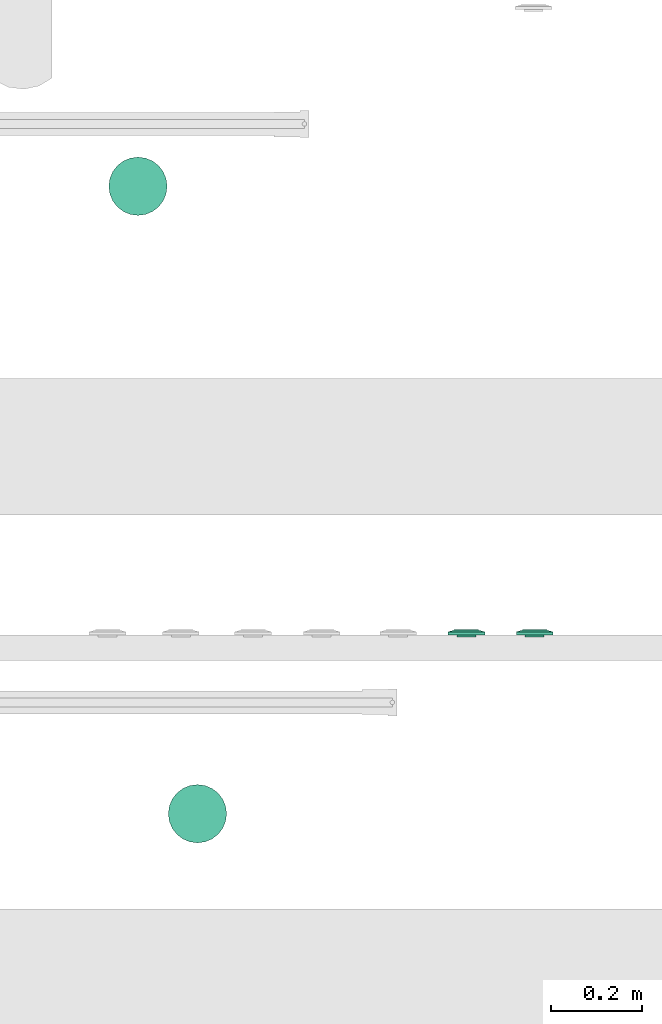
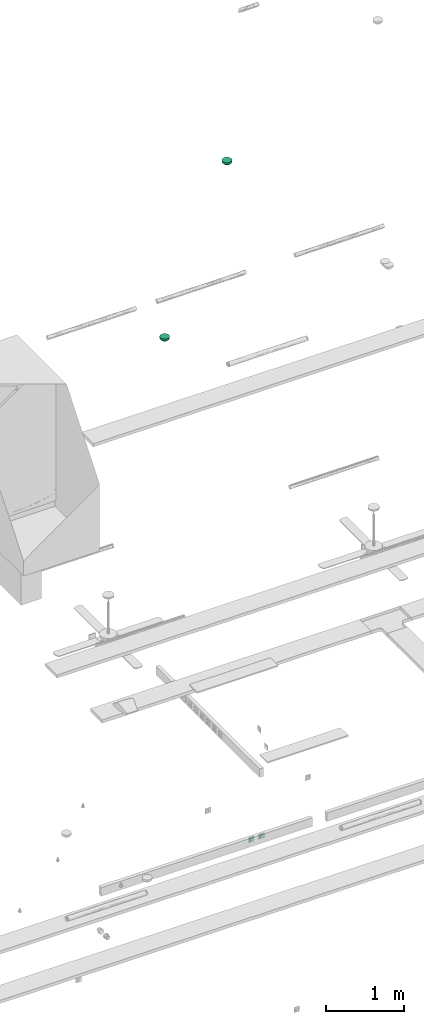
# One storey, part 92 of 153: 4 flow terminals.
"""IFC2X3 building model written with IfcOpenShell, lengths in metres."""

from ifc_helpers import new_model, entity, si_unit, converted_unit, derived_unit, direction, frame, origin, place, context, subcontext, project, spatial, faceted_brep, source, transform, mapped, type_object, type_shapes, element, save


model = new_model("IFC2X3")

# Units and contexts
model_context = context("Model", 3, precision=1e-05, world=origin(), true_north=direction((6.12303176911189e-17, 1.0)))
body_context = subcontext(model_context, "Body", "Model", "MODEL_VIEW")
ifc_project = project(units=[si_unit("LENGTHUNIT", "METRE"), si_unit("AREAUNIT", "SQUARE_METRE"), si_unit("VOLUMEUNIT", "CUBIC_METRE"), converted_unit("PLANEANGLEUNIT", "DEGREE", entity("IfcRatioMeasure", 0.0174532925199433), si_unit("PLANEANGLEUNIT", "RADIAN"), dimensions=[0, 0, 0, 0, 0, 0, 0]), si_unit("MASSUNIT", "GRAM", prefix="KILO"), derived_unit("MASSDENSITYUNIT", [(si_unit("MASSUNIT", "GRAM", prefix="KILO"), 1), (si_unit("LENGTHUNIT", "METRE"), -3)]), si_unit("TIMEUNIT", "SECOND"), si_unit("FREQUENCYUNIT", "HERTZ"), si_unit("THERMODYNAMICTEMPERATUREUNIT", "DEGREE_CELSIUS"), derived_unit("THERMALTRANSMITTANCEUNIT", [(si_unit("MASSUNIT", "GRAM", prefix="KILO"), 1), (si_unit("THERMODYNAMICTEMPERATUREUNIT", "KELVIN"), -1), (si_unit("TIMEUNIT", "SECOND"), -3)]), derived_unit("VOLUMETRICFLOWRATEUNIT", [(si_unit("LENGTHUNIT", "METRE"), 3), (si_unit("TIMEUNIT", "SECOND"), -1)]), si_unit("ELECTRICCURRENTUNIT", "AMPERE"), si_unit("ELECTRICVOLTAGEUNIT", "VOLT"), si_unit("POWERUNIT", "WATT"), si_unit("FORCEUNIT", "NEWTON"), si_unit("ILLUMINANCEUNIT", "LUX"), si_unit("LUMINOUSFLUXUNIT", "LUMEN"), si_unit("LUMINOUSINTENSITYUNIT", "CANDELA"), derived_unit("USERDEFINED", [(si_unit("MASSUNIT", "GRAM", prefix="KILO"), -1), (si_unit("LENGTHUNIT", "METRE"), -2), (si_unit("TIMEUNIT", "SECOND"), 3), (si_unit("LUMINOUSFLUXUNIT", "LUMEN"), 1)]), derived_unit("LINEARVELOCITYUNIT", [(si_unit("LENGTHUNIT", "METRE"), 1), (si_unit("TIMEUNIT", "SECOND"), -1)]), si_unit("PRESSUREUNIT", "PASCAL"), derived_unit("USERDEFINED", [(si_unit("LENGTHUNIT", "METRE"), -2), (si_unit("MASSUNIT", "GRAM", prefix="KILO"), 1), (si_unit("TIMEUNIT", "SECOND"), -2)])], contexts=[model_context])

# Site, building, storey
site_placement = place(None, origin())
site = spatial("IfcSite", under=ifc_project, at=site_placement, Name="Default", CompositionType="ELEMENT")
building_placement = place(site_placement, origin())
building = spatial("IfcBuilding", under=site, at=building_placement, CompositionType="ELEMENT")
storey_placement = place(building_placement, frame((0.0, 0.0, -4.62)))
storey = spatial("IfcBuildingStorey", under=building, at=storey_placement, Name="S02", CompositionType="ELEMENT", Elevation=-4.62)

# Flow terminals
electric_appliance_type = type_object("IfcElectricApplianceType", Name="RJ45 IP20", PredefinedType="NOTDEFINED")
shared_shape_1 = source(origin(), body_context, "Body", "Brep", [
    faceted_brep([(0.00200000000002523, 0.0, 0.00799999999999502), (0.00400000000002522, 0.0, 0.00799999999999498), (0.00500000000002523, 0.00199999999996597, 0.00799999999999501), (0.0110000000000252, 0.00199999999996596, 0.00799999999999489), (0.0120000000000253, 0.0, 0.00799999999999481), (0.0140000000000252, 0.0, 0.00799999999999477), (0.0140000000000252, 0.00399999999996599, 0.00799999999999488), (0.00200000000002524, 0.00399999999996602, 0.00799999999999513), (0.00200000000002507, 0.0, 0.0), (0.00200000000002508, 0.00399999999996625, 0.0), (0.0140000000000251, 0.00399999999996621, 0.0), (0.0140000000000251, 0.0, 0.0), (0.0120000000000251, 0.0, 0.0), (0.0110000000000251, 0.00199999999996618, 0.0), (0.00500000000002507, 0.0019999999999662, 0.0), (0.00400000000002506, 0.0, 0.0)], [[[0, 1, 2, 3, 4, 5, 6, 7]], [[8, 9, 10, 11, 12, 13, 14, 15]], [[1, 0, 8, 15]], [[2, 1, 15, 14]], [[3, 2, 14, 13]], [[4, 3, 13, 12]], [[5, 4, 12, 11]], [[6, 5, 11, 10]], [[7, 6, 10, 9]], [[0, 7, 9, 8]]]),
    faceted_brep([(-0.0139999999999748, 0.0, 0.00799999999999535), (-0.0119999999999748, 0.0, 0.00799999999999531), (-0.0109999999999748, 0.00199999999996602, 0.00799999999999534), (-0.00499999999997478, 0.00199999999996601, 0.00799999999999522), (-0.0039999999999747, 0.0, 0.00799999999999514), (-0.00199999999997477, 0.0, 0.0079999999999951), (-0.00199999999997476, 0.00399999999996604, 0.00799999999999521), (-0.0139999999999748, 0.00399999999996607, 0.00799999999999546), (-0.0139999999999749, 0.0, 0.0), (-0.0139999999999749, 0.00399999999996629, 0.0), (-0.00199999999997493, 0.00399999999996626, 0.0), (-0.00199999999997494, 0.0, 0.0), (-0.00399999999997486, 0.0, 0.0), (-0.00499999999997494, 0.00199999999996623, 0.0), (-0.0109999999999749, 0.00199999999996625, 0.0), (-0.0119999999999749, 0.0, 0.0)], [[[0, 1, 2, 3, 4, 5, 6, 7]], [[8, 9, 10, 11, 12, 13, 14, 15]], [[1, 0, 8, 15]], [[2, 1, 15, 14]], [[3, 2, 14, 13]], [[4, 3, 13, 12]], [[5, 4, 12, 11]], [[6, 5, 11, 10]], [[7, 6, 10, 9]], [[0, 7, 9, 8]]]),
    faceted_brep([(0.0140000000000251, 0.00399999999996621, 0.0), (0.00200000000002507, 0.00399999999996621, 0.0), (0.00200000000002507, -0.00350000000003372, 0.0), (0.0140000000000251, -0.00350000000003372, 0.0), (0.0140000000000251, 0.00399999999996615, 0.00199999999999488), (0.00200000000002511, 0.00399999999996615, 0.00199999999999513), (0.00200000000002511, -0.00393859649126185, 0.00199999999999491), (0.0140000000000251, -0.00393859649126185, 0.00199999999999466), (0.0210000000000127, 0.0209999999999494, 0.00199999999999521), (-0.0209999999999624, 0.0209999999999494, 0.00199999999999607), (-0.0209999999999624, -0.0210000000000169, 0.00199999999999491), (0.0210000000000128, -0.0210000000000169, 0.00199999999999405), (-0.0139999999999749, 0.0039999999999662, 0.00199999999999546), (-0.0019999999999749, 0.0039999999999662, 0.00199999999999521), (-0.00199999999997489, -0.0039385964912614, 0.00199999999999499), (-0.0139999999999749, -0.00393859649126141, 0.00199999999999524), (0.0210000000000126, 0.0209999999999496, -0.00460000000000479), (0.0210000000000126, -0.0210000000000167, -0.00460000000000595), (-0.0209999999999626, -0.0210000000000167, -0.00460000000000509), (-0.0209999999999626, 0.0209999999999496, -0.00460000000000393), (-0.00199999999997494, 0.00399999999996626, 0.0), (-0.0139999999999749, 0.00399999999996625, 0.0), (-0.0139999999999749, -0.00350000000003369, 0.0), (-0.00199999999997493, -0.00350000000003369, 0.0)], [[[0, 1, 2, 3]], [[1, 0, 4, 5]], [[2, 1, 5, 6]], [[3, 2, 6, 7]], [[0, 3, 7, 4]], [[5, 4, 7, 6], [8, 9, 10, 11], [12, 13, 14, 15]], [[16, 17, 18, 19]], [[9, 8, 16, 19]], [[10, 9, 19, 18]], [[11, 10, 18, 17]], [[8, 11, 17, 16]], [[20, 21, 22, 23]], [[21, 20, 13, 12]], [[22, 21, 12, 15]], [[23, 22, 15, 14]], [[20, 23, 14, 13]]], outer=[[True], [True], [True], [True], [True], [False, True, False], [True], [True], [True], [True], [True], [True], [True], [True], [True], [True]]),
    faceted_brep([(0.0270000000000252, 0.026999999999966, 0.0113999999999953), (-0.0269999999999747, 0.026999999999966, 0.0113999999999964), (-0.0269999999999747, -0.0270000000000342, 0.0113999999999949), (0.0270000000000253, -0.0270000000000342, 0.0113999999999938), (0.0020000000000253, 0.00399999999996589, 0.0113999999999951), (0.0140000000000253, 0.00399999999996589, 0.0113999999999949), (0.0140000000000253, -0.00600000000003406, 0.0113999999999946), (0.0020000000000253, -0.00600000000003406, 0.0113999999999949), (-0.0139999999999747, 0.00399999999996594, 0.0113999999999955), (-0.00199999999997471, 0.00399999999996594, 0.0113999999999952), (-0.00199999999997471, -0.0060000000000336, 0.0113999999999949), (-0.0139999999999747, -0.00600000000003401, 0.0113999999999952), (0.0270000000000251, 0.0269999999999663, 0.00199999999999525), (0.0270000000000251, -0.0270000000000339, 0.00199999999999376), (-0.0269999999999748, -0.0270000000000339, 0.00199999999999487), (-0.0269999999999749, 0.0269999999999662, 0.00199999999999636), (0.0140000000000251, 0.00399999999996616, 0.00199999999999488), (0.00200000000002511, 0.00399999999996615, 0.00199999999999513), (0.00200000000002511, -0.00393859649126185, 0.00199999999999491), (0.0140000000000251, -0.00393859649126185, 0.00199999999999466), (-0.00199999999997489, 0.0039999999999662, 0.00199999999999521), (-0.0139999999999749, 0.0039999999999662, 0.00199999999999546), (-0.0139999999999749, -0.0039385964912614, 0.00199999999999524), (-0.00199999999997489, -0.0039385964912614, 0.00199999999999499)], [[[0, 1, 2, 3], [4, 5, 6, 7], [8, 9, 10, 11]], [[12, 13, 14, 15], [16, 17, 18, 19], [20, 21, 22, 23]], [[1, 0, 12, 15]], [[2, 1, 15, 14]], [[3, 2, 14, 13]], [[0, 3, 13, 12]], [[4, 17, 16, 5]], [[17, 4, 7, 18]], [[18, 7, 6, 19]], [[5, 16, 19, 6]], [[8, 21, 20, 9]], [[21, 8, 11, 22]], [[22, 11, 10, 23]], [[9, 20, 23, 10]]]),
    faceted_brep([(0.027000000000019, 0.0269999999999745, 0.00659999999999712), (-0.0269999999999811, 0.0269999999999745, 0.00659999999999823), (-0.026999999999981, -0.0270000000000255, 0.00659999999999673), (0.027000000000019, -0.0270000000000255, 0.00659999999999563), (0.040350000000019, 0.0403499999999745, 0.00659999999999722), (0.040350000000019, -0.0403500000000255, 0.00659999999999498), (-0.0403499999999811, -0.0403500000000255, 0.00659999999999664), (-0.0403499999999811, 0.0403499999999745, 0.00659999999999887), (-0.026999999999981, 0.0269999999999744, 0.0103999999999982), (0.027000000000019, 0.0269999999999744, 0.0103999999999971), (-0.026999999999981, -0.0270000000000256, 0.0103999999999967), (0.027000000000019, -0.0270000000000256, 0.0103999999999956)], [[[0, 1, 2, 3], [4, 5, 6, 7]], [[4, 7, 8, 9]], [[7, 6, 10, 8]], [[6, 5, 11, 10]], [[5, 4, 9, 11]], [[0, 9, 8, 1]], [[1, 8, 10, 2]], [[2, 10, 11, 3]], [[9, 0, 3, 11]]], outer=[[False, True], [True], [True], [True], [True], [True], [True], [True], [True]]),
    faceted_brep([(0.040350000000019, 0.0403499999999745, 0.00659999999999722), (-0.0403499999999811, 0.0403499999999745, 0.00659999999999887), (-0.0403499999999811, -0.0403500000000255, 0.00659999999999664), (0.040350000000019, -0.0403500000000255, 0.00659999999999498), (-0.0269999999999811, 0.0269999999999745, 0.00659999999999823), (0.0270000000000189, 0.0269999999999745, 0.00659999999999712), (0.0270000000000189, -0.0270000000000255, 0.00659999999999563), (-0.0269999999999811, -0.0270000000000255, 0.00659999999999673), (0.0403500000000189, 0.0403499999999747, 0.0), (0.0403500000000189, -0.0403500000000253, 0.0), (-0.0403499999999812, -0.0403500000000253, 0.0), (-0.0403499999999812, 0.0403499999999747, 0.0), (0.0270000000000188, 0.0269999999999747, 0.0), (-0.0269999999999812, 0.0269999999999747, 0.0), (-0.0269999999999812, -0.0270000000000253, 0.0), (0.0270000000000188, -0.0270000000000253, 0.0)], [[[0, 1, 2, 3], [4, 5, 6, 7]], [[8, 9, 10, 11], [12, 13, 14, 15]], [[1, 0, 8, 11]], [[2, 1, 11, 10]], [[3, 2, 10, 9]], [[0, 3, 9, 8]], [[12, 5, 4, 13]], [[13, 4, 7, 14]], [[14, 7, 6, 15]], [[5, 12, 15, 6]]]),
])
type_shapes(electric_appliance_type, [shared_shape_1])
for number, where, z_axis, x_axis in (
    (1, (52.5023946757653, -189.113069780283, -4.18699999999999), (0.0, 1.0, 0.0), (-1.0, 0.0, 0.0)),
    (2, (52.6523946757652, -189.113069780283, -4.18700000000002), (0.0, 1.0, 0.0), (1.0, 0.0, 0.0)),
):
    element("IfcFlowTerminal", number, at=place(building_placement, frame(where, z_axis=z_axis, x_axis=x_axis)), inside=storey, type_object=electric_appliance_type, Name="INT_Prise RJ45:RJ45 IP20", ObjectType="INT_Prise RJ45:RJ45 IP20", context=body_context, shape_type="MappedRepresentation", body=[
        mapped(shared_shape_1, transform((0.0, 0.0, 0.0), scale=1.0)),
    ])
light_fixture_type = type_object("IfcLightFixtureType", Name="Détecteur 360°", PredefinedType="NOTDEFINED")
shared_shape_2 = source(origin(), body_context, "Body", "Brep", [
    faceted_brep([(0.0, -0.0397165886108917, 0.0531256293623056), (0.0, -0.034524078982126, 0.0563702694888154), (-0.0175153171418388, -0.0435914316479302, 0.0478512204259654), (-0.0194029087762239, -0.000878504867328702, 0.0644483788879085), (0.0, 0.0, 0.0669999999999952), (0.0, 0.00603476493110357, 0.0659648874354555), (-0.0174057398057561, -0.0159851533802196, 0.0630502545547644), (-0.0366619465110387, -0.0127227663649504, 0.0549213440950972), (-0.026998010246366, -0.0195753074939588, 0.0584711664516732), (-0.0202403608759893, -0.0335607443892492, 0.054639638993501), (-0.0359767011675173, -0.0348394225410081, 0.0444249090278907), (-0.0276843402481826, -0.0401006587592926, 0.0459804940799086), (-0.0133088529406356, -0.0517577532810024, 0.0400582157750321), (-0.0172617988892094, -0.0486391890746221, 0.042533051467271), (-0.0256912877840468, -0.0533485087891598, 0.0299999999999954), (-0.0462941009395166, -0.0369183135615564, 0.0299999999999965), (0.0, -0.0241390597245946, 0.0628595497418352), (-0.0186245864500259, -0.0267295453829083, 0.0589100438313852), (-0.0139070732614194, -0.0374370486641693, 0.0540817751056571), (0.0, 0.0449090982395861, 0.049880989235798), (-0.0172618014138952, 0.0486391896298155, 0.0425330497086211), (0.0, 0.0397165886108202, 0.0531256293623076), (-0.0186245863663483, 0.0267295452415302, 0.0589100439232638), (-0.0202403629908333, 0.0335607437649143, 0.054639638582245), (-0.0353547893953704, 0.0284533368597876, 0.0494330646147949), (0.0, 0.0120695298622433, 0.0649297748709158), (-0.0249385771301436, 0.0204731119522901, 0.0590841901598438), (-0.0191783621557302, 0.0150189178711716, 0.062775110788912), (-0.0465404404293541, -0.0196510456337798, 0.0438984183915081), (-0.052010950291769, -0.0250471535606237, 0.029999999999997), (-0.0453471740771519, -0.0286501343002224, 0.0397747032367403), (-0.0365036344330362, -0.0226255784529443, 0.0516441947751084), (-0.0175153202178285, 0.0435914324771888, 0.0478512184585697), (-0.0359926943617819, 0.0451334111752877, 0.0299999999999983), (-0.0276843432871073, 0.0401006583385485, 0.0459804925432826), (-0.00849704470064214, -0.0572729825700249, 0.0299999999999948), (0.0, -0.0592123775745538, 0.0299999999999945), (0.0, -0.0545512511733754, 0.0364787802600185), (0.0, -0.049890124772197, 0.0429575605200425), (-0.0169940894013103, -0.055333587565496, 0.0299999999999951), (-0.0359767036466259, 0.0348394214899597, 0.0444249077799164), (-0.025691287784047, 0.0533485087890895, 0.0299999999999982), (-0.0308419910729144, 0.0492409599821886, 0.0299999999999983), (-0.0130265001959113, 0.0514867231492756, 0.040526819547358), (-0.0169940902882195, 0.0553335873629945, 0.029999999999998), (0.0, 0.0498901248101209, 0.0429575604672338), (-0.0353547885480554, -0.0284533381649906, 0.0494330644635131), (0.0, 0.0181042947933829, 0.0638946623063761), (-0.0473669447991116, -0.00128092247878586, 0.0474310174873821), (-0.0485435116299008, -0.00908961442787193, 0.0452357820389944), (-0.0366597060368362, -0.0032867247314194, 0.0563153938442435), (-0.0226425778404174, -0.0107553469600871, 0.0624973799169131), (0.0, -0.00603476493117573, 0.0659648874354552), (0.0, 0.0293315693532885, 0.0596149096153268), (-0.0139070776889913, 0.0374370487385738, 0.0540817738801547), (-0.0449600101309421, 0.018422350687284, 0.0461366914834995), (-0.0453471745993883, 0.0286501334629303, 0.0397747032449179), (-0.0476906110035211, 0.00670602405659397, 0.0466053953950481), (-0.0577277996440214, 0.0131759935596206, 0.0299999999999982), (-0.0577277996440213, 0.00658799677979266, 0.029999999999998), (-0.0577277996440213, 0.0, 0.0299999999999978), (0.0, -0.0449090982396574, 0.0498809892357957), (-0.0308419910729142, -0.049240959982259, 0.0299999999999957), (-0.0359926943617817, -0.0451334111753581, 0.029999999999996), (0.0, 0.0345240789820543, 0.0563702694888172), (-0.0411433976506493, 0.0410258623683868, 0.0299999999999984), (-0.0462941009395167, 0.0369183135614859, 0.0299999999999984), (-0.0491525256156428, -0.03098273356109, 0.0299999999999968), (-0.0577277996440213, -0.0131759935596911, 0.0299999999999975), (0.0, -0.018104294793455, 0.0638946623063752), (-0.0377433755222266, 0.0044838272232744, 0.0554913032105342), (-0.0577277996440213, -0.00658799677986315, 0.0299999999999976), (-0.0385149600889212, 0.0124844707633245, 0.0536578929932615), (-0.0491525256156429, 0.0309827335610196, 0.0299999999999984), (-0.0548693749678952, 0.0191115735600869, 0.0299999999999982), (0.0, 0.0241390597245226, 0.0628595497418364), (-0.014625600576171, 0.0100436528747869, 0.0649170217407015), (-0.0271766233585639, 0.00920278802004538, 0.0609170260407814), (0.0, -0.0120695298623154, 0.0649297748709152), (-0.0520109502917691, 0.0250471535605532, 0.0299999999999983), (-0.0411433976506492, -0.0410258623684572, 0.0299999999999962), (-0.0548693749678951, -0.0191115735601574, 0.0299999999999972), (0.0, -0.0293315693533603, 0.0596149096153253), (0.0, 0.0545512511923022, 0.0364787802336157), (0.0, 0.0592123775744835, 0.0299999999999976), (-0.00849704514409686, 0.057272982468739, 0.0299999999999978), (-0.0127455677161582, 0.0563032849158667, 0.0299999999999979), (-0.0213426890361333, 0.054341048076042, 0.0299999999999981), (0.0175153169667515, 0.0435914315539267, 0.0478512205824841), (0.0194029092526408, 0.000878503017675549, 0.0644483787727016), (0.017405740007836, 0.0159851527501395, 0.0630502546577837), (0.0366619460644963, 0.012722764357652, 0.0549213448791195), (0.0269980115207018, 0.0195753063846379, 0.0584711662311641), (0.0202403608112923, 0.0335607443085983, 0.0546396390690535), (0.0359767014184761, 0.0348394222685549, 0.0444249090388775), (0.0276843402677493, 0.0401006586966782, 0.0459804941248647), (0.0133088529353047, 0.0517577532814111, 0.0400582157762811), (0.0172617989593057, 0.0486391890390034, 0.0425330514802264), (0.0256912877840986, 0.0533485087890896, 0.0299999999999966), (0.0462941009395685, 0.0369183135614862, 0.0299999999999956), (0.00849704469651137, 0.0572729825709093, 0.0299999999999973), (0.0169940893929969, 0.0553335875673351, 0.029999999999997), (0.0172617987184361, -0.0486391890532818, 0.0425330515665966), (0.025691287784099, -0.0533485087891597, 0.0299999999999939), (0.0308419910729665, -0.0492409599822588, 0.0299999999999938), (0.0175153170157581, -0.0435914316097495, 0.0478512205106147), (0.0186245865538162, -0.0267295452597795, 0.0589100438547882), (0.0202403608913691, -0.03356074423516, 0.0546396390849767), (0.0353547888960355, -0.0284533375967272, 0.0494330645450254), (0.0249385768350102, -0.0204731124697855, 0.0590841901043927), (0.0191783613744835, -0.0150189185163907, 0.062775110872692), (0.0465404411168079, 0.0196510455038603, 0.0438984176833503), (0.0577277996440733, 0.0131759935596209, 0.0299999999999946), (0.0548693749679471, 0.0191115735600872, 0.0299999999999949), (0.0520109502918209, 0.0250471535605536, 0.0299999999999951), (0.0365036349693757, 0.0226255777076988, 0.0516441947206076), (0.0186245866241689, 0.0267295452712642, 0.0589100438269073), (0.0359926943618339, -0.0451334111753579, 0.0299999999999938), (0.0276843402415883, -0.0401006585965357, 0.0459804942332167), (0.0139070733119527, 0.0374370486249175, 0.0540817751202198), (0.0359767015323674, -0.0348394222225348, 0.044424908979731), (0.0226425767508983, 0.0107553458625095, 0.0624973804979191), (0.0169940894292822, -0.0553335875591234, 0.0299999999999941), (0.0130264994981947, -0.0514867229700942, 0.0405268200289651), (0.0453471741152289, 0.0286501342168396, 0.039774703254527), (0.0353547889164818, 0.0284533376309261, 0.0494330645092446), (0.0473669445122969, 0.00128092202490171, 0.0474310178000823), (0.0485435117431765, 0.00908961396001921, 0.0452357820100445), (0.0366597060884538, 0.00328672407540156, 0.0563153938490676), (0.0139070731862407, -0.0374370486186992, 0.0540817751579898), (0.0449600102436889, -0.018422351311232, 0.0461366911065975), (0.0453471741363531, -0.0286501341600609, 0.039774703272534), (0.0476906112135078, -0.00670602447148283, 0.046605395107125), (0.0577277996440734, -0.0131759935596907, 0.0299999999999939), (0.0577277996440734, -0.00658799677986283, 0.0299999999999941), (0.0577277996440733, 0.0, 0.0299999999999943), (0.0308419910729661, 0.0492409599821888, 0.0299999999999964), (0.0359926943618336, 0.0451334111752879, 0.0299999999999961), (0.0411433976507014, -0.041025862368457, 0.0299999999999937), (0.0462941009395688, -0.0369183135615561, 0.0299999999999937), (0.0491525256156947, 0.0309827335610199, 0.0299999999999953), (0.037743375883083, -0.00448382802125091, 0.0554913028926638), (0.0577277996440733, 0.00658799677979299, 0.0299999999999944), (0.0385149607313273, -0.0124844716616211, 0.0536578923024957), (0.049152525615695, -0.0309827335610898, 0.0299999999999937), (0.0548693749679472, -0.0191115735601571, 0.0299999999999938), (0.0146256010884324, -0.0100436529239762, 0.0649170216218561), (0.0271766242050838, -0.00920278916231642, 0.0609170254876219), (0.0520109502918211, -0.0250471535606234, 0.0299999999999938), (0.041143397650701, 0.0410258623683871, 0.0299999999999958), (0.00849704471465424, -0.0572729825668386, 0.0299999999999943), (0.0127455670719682, -0.056303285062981, 0.0299999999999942), (0.0213426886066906, -0.0543410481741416, 0.029999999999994), (0.0, 0.0, 0.0299999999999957)], [[[0, 1, 2]], [[3, 4, 5]], [[6, 7, 8]], [[9, 10, 11]], [[12, 13, 14]], [[10, 15, 11]], [[9, 16, 17]], [[18, 9, 11]], [[19, 20, 21]], [[22, 23, 24]], [[25, 26, 27]], [[28, 29, 30]], [[8, 31, 17]], [[32, 33, 34]], [[35, 36, 37, 38, 39]], [[23, 40, 24]], [[20, 41, 42]], [[19, 43, 20]], [[44, 43, 45]], [[20, 32, 21]], [[30, 10, 46]], [[22, 26, 47]], [[48, 49, 50]], [[3, 51, 52]], [[53, 54, 23]], [[55, 24, 56]], [[57, 58, 59, 60]], [[13, 61, 0]], [[13, 0, 2]], [[2, 62, 13]], [[18, 2, 1]], [[2, 11, 63]], [[32, 64, 21]], [[32, 42, 33]], [[34, 33, 65, 66]], [[20, 42, 32]], [[54, 32, 34]], [[28, 30, 31]], [[10, 67, 15]], [[49, 68, 28]], [[8, 17, 69]], [[7, 6, 51]], [[28, 31, 7]], [[57, 48, 70]], [[58, 57, 55]], [[48, 71, 49]], [[70, 48, 50]], [[3, 50, 51]], [[55, 26, 24]], [[72, 57, 70]], [[26, 55, 72]], [[56, 40, 73]], [[56, 74, 55]], [[47, 75, 22]], [[52, 4, 3]], [[7, 50, 49]], [[5, 76, 3]], [[70, 3, 77]], [[51, 78, 52]], [[26, 25, 47]], [[76, 25, 27]], [[23, 22, 75]], [[26, 22, 24]], [[53, 64, 54]], [[23, 34, 40]], [[66, 40, 34]], [[40, 66, 73]], [[56, 73, 79, 74]], [[72, 27, 26]], [[40, 56, 24]], [[23, 75, 53]], [[69, 17, 16]], [[78, 6, 69]], [[46, 10, 9]], [[46, 9, 17]], [[50, 7, 51]], [[30, 29, 67]], [[80, 63, 11, 15]], [[28, 68, 81, 29]], [[10, 30, 67]], [[30, 46, 31]], [[82, 18, 1]], [[82, 16, 9]], [[28, 7, 49]], [[12, 39, 38]], [[61, 13, 12]], [[83, 84, 85, 86, 44, 45]], [[43, 41, 20]], [[44, 87, 41, 43]], [[32, 54, 64]], [[23, 54, 34]], [[9, 18, 82]], [[2, 18, 11]], [[39, 12, 14]], [[38, 61, 12]], [[62, 2, 63]], [[62, 14, 13]], [[17, 31, 46]], [[7, 31, 8]], [[48, 60, 71]], [[71, 68, 49]], [[60, 48, 57]], [[3, 70, 50]], [[72, 70, 77]], [[72, 77, 27]], [[55, 57, 72]], [[74, 58, 55]], [[76, 27, 77]], [[3, 76, 77]], [[25, 76, 5]], [[69, 6, 8]], [[78, 51, 6]], [[45, 43, 19]], [[21, 64, 88]], [[89, 4, 52]], [[90, 91, 92]], [[93, 94, 95]], [[96, 97, 98]], [[94, 99, 95]], [[100, 84, 83, 45, 101]], [[102, 103, 104]], [[102, 105, 0]], [[106, 107, 108]], [[78, 109, 110]], [[111, 112, 113, 114]], [[92, 115, 116]], [[105, 117, 118]], [[119, 93, 95]], [[107, 120, 108]], [[89, 121, 5]], [[122, 123, 38]], [[61, 123, 102]], [[93, 75, 116]], [[124, 94, 125]], [[106, 109, 69]], [[126, 127, 128]], [[61, 102, 0]], [[82, 129, 107]], [[130, 108, 131]], [[132, 133, 134, 135]], [[97, 19, 21]], [[97, 21, 88]], [[88, 136, 97]], [[119, 88, 64]], [[88, 95, 137]], [[105, 1, 0]], [[105, 104, 117]], [[118, 117, 138, 139]], [[102, 104, 105]], [[129, 105, 118]], [[111, 124, 115]], [[94, 140, 99]], [[127, 112, 111]], [[92, 116, 47]], [[91, 90, 121]], [[111, 115, 91]], [[132, 126, 141]], [[133, 132, 130]], [[126, 142, 127]], [[141, 126, 128]], [[89, 128, 121]], [[130, 109, 108]], [[143, 132, 141]], [[109, 130, 143]], [[131, 120, 144]], [[131, 145, 130]], [[69, 16, 106]], [[5, 4, 89]], [[91, 128, 127]], [[52, 146, 89]], [[141, 89, 147]], [[121, 25, 5]], [[109, 78, 69]], [[146, 78, 110]], [[107, 106, 16]], [[109, 106, 108]], [[82, 1, 129]], [[107, 118, 120]], [[139, 120, 118]], [[120, 139, 144]], [[131, 144, 148, 145]], [[143, 110, 109]], [[120, 131, 108]], [[107, 16, 82]], [[47, 116, 75]], [[25, 90, 47]], [[125, 94, 93]], [[125, 93, 116]], [[128, 91, 121]], [[124, 114, 140]], [[149, 137, 95, 99]], [[111, 114, 124]], [[94, 124, 140]], [[124, 125, 115]], [[53, 119, 64]], [[53, 75, 93]], [[111, 91, 127]], [[96, 101, 45]], [[19, 97, 96]], [[37, 36, 150, 151, 122, 38]], [[123, 103, 102]], [[122, 152, 103, 123]], [[105, 129, 1]], [[107, 129, 118]], [[93, 119, 53]], [[88, 119, 95]], [[101, 96, 98]], [[45, 19, 96]], [[136, 88, 137]], [[136, 98, 97]], [[116, 115, 125]], [[91, 115, 92]], [[126, 135, 142]], [[142, 112, 127]], [[135, 126, 132]], [[89, 141, 128]], [[143, 141, 147]], [[143, 147, 110]], [[130, 132, 143]], [[145, 133, 130]], [[146, 110, 147]], [[89, 146, 147]], [[78, 146, 52]], [[47, 90, 92]], [[25, 121, 90]], [[38, 123, 61]], [[153, 66, 65]], [[153, 65, 33]], [[153, 33, 42]], [[153, 42, 41]], [[153, 41, 87]], [[153, 73, 66]], [[153, 79, 73]], [[153, 74, 79]], [[153, 58, 74]], [[153, 87, 44]], [[153, 44, 86]], [[153, 86, 85]], [[153, 85, 84]], [[153, 84, 100]], [[153, 59, 58]], [[153, 60, 59]], [[153, 71, 60]], [[153, 68, 71]], [[153, 81, 68]], [[153, 29, 81]], [[153, 67, 29]], [[153, 15, 67]], [[153, 80, 15]], [[153, 63, 80]], [[153, 62, 63]], [[153, 14, 62]], [[153, 39, 14]], [[153, 35, 39]], [[153, 36, 35]], [[153, 100, 101]], [[153, 101, 98]], [[153, 98, 136]], [[153, 136, 137]], [[153, 137, 149]], [[153, 149, 99]], [[153, 99, 140]], [[153, 140, 114]], [[153, 114, 113]], [[153, 113, 112]], [[153, 112, 142]], [[153, 150, 36]], [[153, 151, 150]], [[153, 122, 151]], [[153, 152, 122]], [[153, 103, 152]], [[153, 104, 103]], [[153, 117, 104]], [[153, 138, 117]], [[153, 139, 138]], [[153, 144, 139]], [[153, 148, 144]], [[153, 145, 148]], [[153, 133, 145]], [[153, 142, 135]], [[153, 135, 134]], [[153, 134, 133]]]),
    faceted_brep([(0.0165644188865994, -0.0618192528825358, 0.029999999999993), (0.0320000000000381, -0.0554256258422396, 0.0299999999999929), (0.0452548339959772, -0.0452548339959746, 0.0299999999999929), (0.0554256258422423, -0.0320000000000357, 0.029999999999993), (0.0618192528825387, -0.016564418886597, 0.0299999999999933), (0.0640000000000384, 0.0, 0.0299999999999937), (0.0618192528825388, 0.016564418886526, 0.0299999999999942), (0.0554256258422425, 0.0319999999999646, 0.0299999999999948), (0.0452548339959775, 0.0452548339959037, 0.0299999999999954), (0.0320000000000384, 0.0554256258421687, 0.0299999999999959), (0.0165644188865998, 0.061819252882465, 0.0299999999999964), (0.0, 0.0639999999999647, 0.0299999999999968), (-0.0165644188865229, 0.061819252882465, 0.0299999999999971), (-0.0319999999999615, 0.0554256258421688, 0.0299999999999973), (-0.0452548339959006, 0.0452548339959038, 0.0299999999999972), (-0.0554256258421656, 0.0319999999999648, 0.0299999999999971), (-0.0618192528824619, 0.0165644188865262, 0.0299999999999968), (-0.0639999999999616, 0.0, 0.0299999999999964), (-0.061819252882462, -0.0165644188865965, 0.0299999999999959), (-0.0554256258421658, -0.0320000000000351, 0.0299999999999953), (-0.0452548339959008, -0.0452548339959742, 0.0299999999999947), (-0.0319999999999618, -0.0554256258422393, 0.0299999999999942), (-0.0165644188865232, -0.0618192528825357, 0.0299999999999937), (0.0, -0.0640000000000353, 0.0299999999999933), (0.0165644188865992, 0.0618192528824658, 0.0), (0.0320000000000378, 0.0554256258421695, 0.0), (0.0452548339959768, 0.0452548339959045, 0.0), (0.0554256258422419, 0.0319999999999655, 0.0), (0.0618192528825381, 0.0165644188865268, 0.0), (0.0640000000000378, 0.0, 0.0), (0.061819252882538, -0.0165644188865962, 0.0), (0.0554256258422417, -0.0320000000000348, 0.0), (0.0452548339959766, -0.0452548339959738, 0.0), (0.0320000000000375, -0.0554256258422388, 0.0), (0.0165644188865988, -0.061819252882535, 0.0), (0.0, -0.0640000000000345, 0.0), (-0.0165644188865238, -0.0618192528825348, 0.0), (-0.0319999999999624, -0.0554256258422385, 0.0), (-0.0452548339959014, -0.0452548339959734, 0.0), (-0.0554256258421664, -0.0320000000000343, 0.0), (-0.0618192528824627, -0.0165644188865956, 0.0), (-0.0639999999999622, 0.0, 0.0), (-0.0618192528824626, 0.016564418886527, 0.0), (-0.0554256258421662, 0.0319999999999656, 0.0), (-0.0452548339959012, 0.0452548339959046, 0.0), (-0.0319999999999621, 0.0554256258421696, 0.0), (-0.0165644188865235, 0.0618192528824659, 0.0), (0.0, 0.0639999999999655, 0.0)], [[[0, 1, 2, 3, 4, 5, 6, 7, 8, 9, 10, 11, 12, 13, 14, 15, 16, 17, 18, 19, 20, 21, 22, 23]], [[24, 25, 26, 27, 28, 29, 30, 31, 32, 33, 34, 35, 36, 37, 38, 39, 40, 41, 42, 43, 44, 45, 46, 47]], [[40, 18, 17, 41]], [[39, 19, 18, 40]], [[21, 20, 38, 37]], [[39, 38, 20, 19]], [[22, 21, 37, 36]], [[23, 22, 36, 35]], [[34, 0, 23, 35]], [[33, 1, 0, 34]], [[3, 2, 32, 31]], [[33, 32, 2, 1]], [[4, 3, 31, 30]], [[5, 4, 30, 29]], [[28, 6, 5, 29]], [[27, 7, 6, 28]], [[9, 8, 26, 25]], [[27, 26, 8, 7]], [[10, 9, 25, 24]], [[11, 10, 24, 47]], [[46, 12, 11, 47]], [[45, 13, 12, 46]], [[42, 41, 17, 16]], [[44, 14, 13, 45]], [[43, 15, 14, 44]], [[43, 42, 16, 15]]]),
])
type_shapes(light_fixture_type, [shared_shape_2])
for number, where, z_axis, x_axis in (
    (3, (51.7807299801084, -188.127360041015, 3.37), (0.0, 0.0, -1.0), (-1.0, 0.0, 0.0)),
    (4, (51.9114544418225, -189.50606962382, 6.93), (0.0, 0.0, -1.0), (-1.0, 0.0, 0.0)),
):
    element("IfcFlowTerminal", number, at=place(building_placement, frame(where, z_axis=z_axis, x_axis=x_axis)), inside=storey, type_object=light_fixture_type, Name="INT - Détecteur Luminosite:Détecteur 360°", ObjectType="INT - Détecteur Luminosite:Détecteur 360°", context=body_context, shape_type="MappedRepresentation", body=[
        mapped(shared_shape_2, transform((0.0, 0.0, 0.0), scale=1.0)),
    ])

save(model, "model.ifc")
